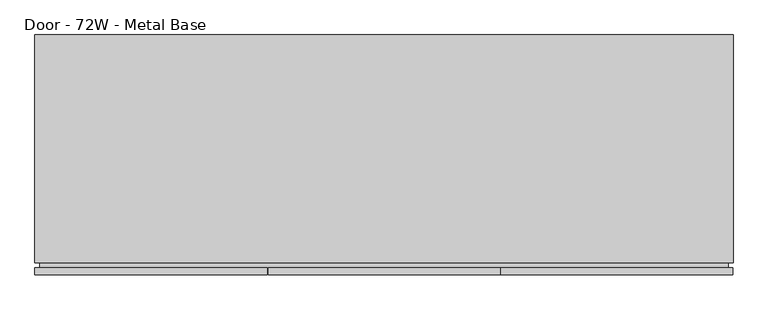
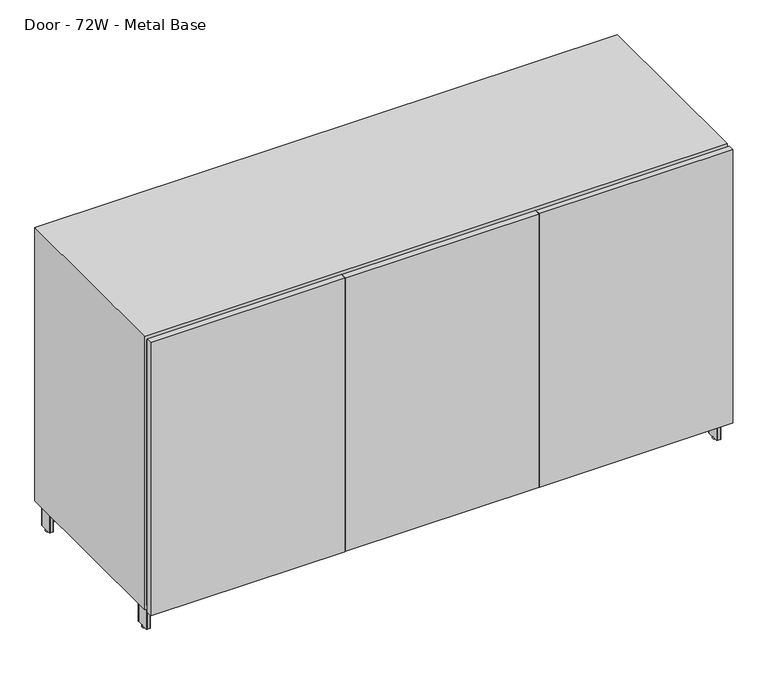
"""IFC4 building model written with IfcOpenShell, lengths in millimetres: furniture geometry, Steelcase Coalesse - Exponents - Storage - Credenza - 39H : Door - 72W - Metal Base."""

from ifc_helpers import new_model, si_unit, point, frame, frame_2d, origin, origin_with_axes, place, context, project, spatial, polyline, circle_curve, trimmed, segment, composite_curve, outline, extrude, faceted_brep, source, transform, mapped, element, save


def door_72w_metal_base_77112ab6(model_context):
    return source(origin(), model_context, "Body", "SolidModel", [
        faceted_brep([(6.35, 31.75, 977.9), (6.35, 31.75, 95.25), (6.35, 622.3, 95.25), (6.35, 622.3, 977.9), (1822.45, 622.3, 95.25), (1822.45, 622.3, 977.9), (1822.45, 31.75, 95.25), (1822.45, 31.75, 977.9), (0.0, 31.75, 82.55), (1828.8, 31.75, 82.55), (1828.8, 31.75, 990.6), (0.0, 31.75, 990.6), (1828.8, 628.65, 82.55), (1828.8, 628.65, 990.6), (0.0, 628.65, 82.55), (0.0, 628.65, 990.6)], [[[0, 1, 2, 3]], [[3, 2, 4, 5]], [[5, 4, 6, 7]], [[8, 9, 10, 11], [7, 6, 1, 0]], [[10, 9, 12, 13]], [[13, 12, 14, 15]], [[15, 14, 8, 11]], [[7, 0, 3, 5]], [[10, 13, 15, 11]], [[1, 6, 4, 2]], [[12, 9, 8, 14]]]),
        extrude(outline(composite_curve([segment(polyline([(1805.1506426, 615.95), (1814.322, 615.95)]), True, "CONTINUOUS"), segment(trimmed(circle_curve(frame_2d((1814.322, 614.172)), 1.778), [point((1814.322, 615.95))], [point((1816.1, 614.172))], False, "CARTESIAN"), True, "CONTINUOUS"), segment(polyline([(1816.1, 614.172), (1816.1, 572.9986)]), True, "CONTINUOUS"), segment(trimmed(circle_curve(frame_2d((1814.322, 572.9986)), 1.778), [point((1816.1, 572.9986))], [point((1814.322, 571.2206))], False, "CARTESIAN"), True, "CONTINUOUS"), segment(polyline([(1814.322, 571.2206), (1805.1948916, 571.2206)]), True, "CONTINUOUS"), segment(trimmed(circle_curve(frame_2d((1805.1948916, 573.0154916)), 1.7948916), [point((1805.1948916, 571.2206))], [point((1803.4, 573.0154916))], False, "CARTESIAN"), True, "CONTINUOUS"), segment(polyline([(1803.4, 573.0154916), (1803.4, 614.1993574)]), True, "CONTINUOUS"), segment(trimmed(circle_curve(frame_2d((1805.1506426, 614.1993574)), 1.7506426), [point((1803.4, 614.1993574))], [point((1805.1506426, 615.95))], False, "CARTESIAN"), True, "CONTINUOUS")], self_intersect=False)), frame((0.0, 0.0, 6.35), z_axis=(0.0, 0.0, 1.0), x_axis=(1.0, 0.0, 0.0)), (0.0, 0.0, 1.0), 73.4568),
        extrude(outline(composite_curve([segment(polyline([(1805.1506426, 88.9), (1814.322, 88.9)]), True, "CONTINUOUS"), segment(trimmed(circle_curve(frame_2d((1814.322, 87.122)), 1.778), [point((1814.322, 88.9))], [point((1816.1, 87.122))], False, "CARTESIAN"), True, "CONTINUOUS"), segment(polyline([(1816.1, 87.122), (1816.1, 45.9486)]), True, "CONTINUOUS"), segment(trimmed(circle_curve(frame_2d((1814.322, 45.9486)), 1.778), [point((1816.1, 45.9486))], [point((1814.322, 44.1706))], False, "CARTESIAN"), True, "CONTINUOUS"), segment(polyline([(1814.322, 44.1706), (1805.1948916, 44.1706)]), True, "CONTINUOUS"), segment(trimmed(circle_curve(frame_2d((1805.1948916, 45.9654916)), 1.7948916), [point((1805.1948916, 44.1706))], [point((1803.4, 45.9654916))], False, "CARTESIAN"), True, "CONTINUOUS"), segment(polyline([(1803.4, 45.9654916), (1803.4, 87.1493574)]), True, "CONTINUOUS"), segment(trimmed(circle_curve(frame_2d((1805.1506426, 87.1493574)), 1.7506426), [point((1803.4, 87.1493574))], [point((1805.1506426, 88.9))], False, "CARTESIAN"), True, "CONTINUOUS")], self_intersect=False)), frame((0.0, 0.0, 6.35), z_axis=(0.0, 0.0, 1.0), x_axis=(1.0, 0.0, 0.0)), (0.0, 0.0, 1.0), 73.4568),
        extrude(outline(composite_curve([segment(trimmed(circle_curve(frame_2d((1809.75, 593.5667033)), 6.35), [point((1809.75, 599.9167033))], [point((1809.75, 587.2167033))], False, "CARTESIAN"), True, "CONTINUOUS"), segment(trimmed(circle_curve(frame_2d((1809.75, 593.5667033)), 6.35), [point((1809.75, 587.2167033))], [point((1809.75, 599.9167033))], False, "CARTESIAN"), True, "CONTINUOUS")], self_intersect=False)), origin_with_axes(), (0.0, 0.0, 1.0), 6.35),
        extrude(outline(composite_curve([segment(trimmed(circle_curve(frame_2d((1809.75, 66.7867854)), 6.35), [point((1809.75, 73.1367854))], [point((1809.75, 60.4367854))], False, "CARTESIAN"), True, "CONTINUOUS"), segment(trimmed(circle_curve(frame_2d((1809.75, 66.7867854)), 6.35), [point((1809.75, 60.4367854))], [point((1809.75, 73.1367854))], False, "CARTESIAN"), True, "CONTINUOUS")], self_intersect=False)), origin_with_axes(), (0.0, 0.0, 1.0), 6.35),
        extrude(outline(polyline([(1270.0, 379.0696809), (1270.0, 277.4696809), (1168.4, 277.4696809), (1168.4, 379.0696809), (1270.0, 379.0696809)])), frame((0.0, 0.0, 79.8068), z_axis=(0.0, 0.0, 1.0), x_axis=(1.0, 0.0, 0.0)), (0.0, 0.0, 1.0), 2.7432),
        extrude(outline(polyline([(977.9, 1816.1), (977.9, 12.7), (95.25, 12.7), (95.25, 1816.1), (977.9, 1816.1)]), holes=[polyline([(971.55, 1809.75), (101.6, 1809.75), (101.6, 19.05), (971.55, 19.05), (971.55, 1809.75)])]), frame((0.0, 19.05, 0.0), z_axis=(0.0, 1.0, 0.0), x_axis=(0.0, 0.0, 1.0)), (0.0, 0.0, 1.0), 31.75),
        extrude(outline(composite_curve([segment(polyline([(1211.4256426, 349.25), (1226.947, 349.25)]), True, "CONTINUOUS"), segment(trimmed(circle_curve(frame_2d((1226.947, 347.472)), 1.778), [point((1226.947, 349.25))], [point((1228.725, 347.472))], False, "CARTESIAN"), True, "CONTINUOUS"), segment(polyline([(1228.725, 347.472), (1228.725, 312.928)]), True, "CONTINUOUS"), segment(trimmed(circle_curve(frame_2d((1226.947, 312.928)), 1.778), [point((1228.725, 312.928))], [point((1226.947, 311.15))], False, "CARTESIAN"), True, "CONTINUOUS"), segment(polyline([(1226.947, 311.15), (1211.4698916, 311.15)]), True, "CONTINUOUS"), segment(trimmed(circle_curve(frame_2d((1211.4698916, 312.9448916)), 1.7948916), [point((1211.4698916, 311.15))], [point((1209.675, 312.9448916))], False, "CARTESIAN"), True, "CONTINUOUS"), segment(polyline([(1209.675, 312.9448916), (1209.675, 347.4993574)]), True, "CONTINUOUS"), segment(trimmed(circle_curve(frame_2d((1211.4256426, 347.4993574)), 1.7506426), [point((1209.675, 347.4993574))], [point((1211.4256426, 349.25))], False, "CARTESIAN"), True, "CONTINUOUS")], self_intersect=False)), frame((0.0, 0.0, 6.35), z_axis=(0.0, 0.0, 1.0), x_axis=(1.0, 0.0, 0.0)), (0.0, 0.0, 1.0), 73.4568),
        extrude(outline(polyline([(1220.4800308, 345.280854), (1803.4, 598.591626), (1803.4, 577.8206777), (1233.5741031, 330.2), (1803.4, 82.5793223), (1803.4, 61.808374), (1220.777267, 314.9899805), (1227.2101738, 329.7934165), (1220.4800308, 345.280854)])), frame((0.0, 0.0, 34.925), z_axis=(0.0, 0.0, 1.0), x_axis=(1.0, 0.0, 0.0)), (0.0, 0.0, 1.0), 44.8818),
        extrude(outline(polyline([(1822.45, 520.7), (1720.85, 520.7), (1720.85, 622.3), (1822.45, 622.3), (1822.45, 520.7)])), frame((0.0, 0.0, 79.8068), z_axis=(0.0, 0.0, 1.0), x_axis=(1.0, 0.0, 0.0)), (0.0, 0.0, 1.0), 2.7432),
        extrude(outline(polyline([(1822.45, 139.7), (1822.45, 38.1), (1720.85, 38.1), (1720.85, 139.7), (1822.45, 139.7)])), frame((0.0, 0.0, 79.8068), z_axis=(0.0, 0.0, 1.0), x_axis=(1.0, 0.0, 0.0)), (0.0, 0.0, 1.0), 2.7432),
        extrude(outline(composite_curve([segment(trimmed(circle_curve(frame_2d((1219.0250692, 330.5590189)), 6.35), [point((1219.0250692, 336.9090189))], [point((1219.0250692, 324.2090189))], False, "CARTESIAN"), True, "CONTINUOUS"), segment(trimmed(circle_curve(frame_2d((1219.0250692, 330.5590189)), 6.35), [point((1219.0250692, 324.2090189))], [point((1219.0250692, 336.9090189))], False, "CARTESIAN"), True, "CONTINUOUS")], self_intersect=False)), origin_with_axes(), (0.0, 0.0, 1.0), 6.35),
        extrude(outline(polyline([(1827.8348, 19.05), (1827.8348, 0.0), (1220.0128, 0.0), (1220.0128, 19.05), (1827.8348, 19.05)])), frame((0.0, 0.0, 82.55), z_axis=(0.0, 0.0, 1.0), x_axis=(1.0, 0.0, 0.0)), (0.0, 0.0, 1.0), 908.05),
        extrude(outline(composite_curve([segment(trimmed(circle_curve(frame_2d((23.6493574, 614.1993574)), 1.7506426), [point((23.6493574, 615.95))], [point((25.4, 614.1993574))], False, "CARTESIAN"), True, "CONTINUOUS"), segment(polyline([(25.4, 614.1993574), (25.4, 573.0154916)]), True, "CONTINUOUS"), segment(trimmed(circle_curve(frame_2d((23.6051084, 573.0154916)), 1.7948916), [point((25.4, 573.0154916))], [point((23.6051084, 571.2206))], False, "CARTESIAN"), True, "CONTINUOUS"), segment(polyline([(23.6051084, 571.2206), (14.478, 571.2206)]), True, "CONTINUOUS"), segment(trimmed(circle_curve(frame_2d((14.478, 572.9986)), 1.778), [point((14.478, 571.2206))], [point((12.7, 572.9986))], False, "CARTESIAN"), True, "CONTINUOUS"), segment(polyline([(12.7, 572.9986), (12.7, 614.172)]), True, "CONTINUOUS"), segment(trimmed(circle_curve(frame_2d((14.478, 614.172)), 1.778), [point((12.7, 614.172))], [point((14.478, 615.95))], False, "CARTESIAN"), True, "CONTINUOUS"), segment(polyline([(14.478, 615.95), (23.6493574, 615.95)]), True, "CONTINUOUS")], self_intersect=False)), frame((0.0, 0.0, 6.35), z_axis=(0.0, 0.0, 1.0), x_axis=(1.0, 0.0, 0.0)), (0.0, 0.0, 1.0), 73.4568),
        extrude(outline(composite_curve([segment(trimmed(circle_curve(frame_2d((23.6493574, 87.1493574)), 1.7506426), [point((23.6493574, 88.9))], [point((25.4, 87.1493574))], False, "CARTESIAN"), True, "CONTINUOUS"), segment(polyline([(25.4, 87.1493574), (25.4, 45.9654916)]), True, "CONTINUOUS"), segment(trimmed(circle_curve(frame_2d((23.6051084, 45.9654916)), 1.7948916), [point((25.4, 45.9654916))], [point((23.6051084, 44.1706))], False, "CARTESIAN"), True, "CONTINUOUS"), segment(polyline([(23.6051084, 44.1706), (14.478, 44.1706)]), True, "CONTINUOUS"), segment(trimmed(circle_curve(frame_2d((14.478, 45.9486)), 1.778), [point((14.478, 44.1706))], [point((12.7, 45.9486))], False, "CARTESIAN"), True, "CONTINUOUS"), segment(polyline([(12.7, 45.9486), (12.7, 87.122)]), True, "CONTINUOUS"), segment(trimmed(circle_curve(frame_2d((14.478, 87.122)), 1.778), [point((12.7, 87.122))], [point((14.478, 88.9))], False, "CARTESIAN"), True, "CONTINUOUS"), segment(polyline([(14.478, 88.9), (23.6493574, 88.9)]), True, "CONTINUOUS")], self_intersect=False)), frame((0.0, 0.0, 6.35), z_axis=(0.0, 0.0, 1.0), x_axis=(1.0, 0.0, 0.0)), (0.0, 0.0, 1.0), 73.4568),
        extrude(outline(composite_curve([segment(trimmed(circle_curve(frame_2d((617.3743574, 347.4993574)), 1.7506426), [point((617.3743574, 349.25))], [point((619.125, 347.4993574))], False, "CARTESIAN"), True, "CONTINUOUS"), segment(polyline([(619.125, 347.4993574), (619.125, 312.9448916)]), True, "CONTINUOUS"), segment(trimmed(circle_curve(frame_2d((617.3301084, 312.9448916)), 1.7948916), [point((619.125, 312.9448916))], [point((617.3301084, 311.15))], False, "CARTESIAN"), True, "CONTINUOUS"), segment(polyline([(617.3301084, 311.15), (601.853, 311.15)]), True, "CONTINUOUS"), segment(trimmed(circle_curve(frame_2d((601.853, 312.928)), 1.778), [point((601.853, 311.15))], [point((600.075, 312.928))], False, "CARTESIAN"), True, "CONTINUOUS"), segment(polyline([(600.075, 312.928), (600.075, 347.472)]), True, "CONTINUOUS"), segment(trimmed(circle_curve(frame_2d((601.853, 347.472)), 1.778), [point((600.075, 347.472))], [point((601.853, 349.25))], False, "CARTESIAN"), True, "CONTINUOUS"), segment(polyline([(601.853, 349.25), (617.3743574, 349.25)]), True, "CONTINUOUS")], self_intersect=False)), frame((0.0, 0.0, 6.35), z_axis=(0.0, 0.0, 1.0), x_axis=(1.0, 0.0, 0.0)), (0.0, 0.0, 1.0), 73.4568),
        extrude(outline(polyline([(608.3199692, 345.280854), (601.5898262, 329.7934165), (608.022733, 314.9899805), (25.4, 61.808374), (25.4, 82.5793223), (595.2258969, 330.2), (25.4, 577.8206777), (25.4, 598.591626), (608.3199692, 345.280854)])), frame((0.0, 0.0, 34.925), z_axis=(0.0, 0.0, 1.0), x_axis=(1.0, 0.0, 0.0)), (0.0, 0.0, 1.0), 44.8818),
        extrude(outline(polyline([(1218.4126, 19.05), (1218.4126, 0.0), (610.5652, 0.0), (610.5652, 19.05), (1218.4126, 19.05)])), frame((0.0, 0.0, 82.55), z_axis=(0.0, 0.0, 1.0), x_axis=(1.0, 0.0, 0.0)), (0.0, 0.0, 1.0), 908.05),
        extrude(outline(polyline([(6.35, 520.7), (6.35, 622.3), (107.95, 622.3), (107.95, 520.7), (6.35, 520.7)])), frame((0.0, 0.0, 79.8068), z_axis=(0.0, 0.0, 1.0), x_axis=(1.0, 0.0, 0.0)), (0.0, 0.0, 1.0), 2.7432),
        extrude(outline(polyline([(6.35, 139.7), (107.95, 139.7), (107.95, 38.1), (6.35, 38.1), (6.35, 139.7)])), frame((0.0, 0.0, 79.8068), z_axis=(0.0, 0.0, 1.0), x_axis=(1.0, 0.0, 0.0)), (0.0, 0.0, 1.0), 2.7432),
        extrude(outline(polyline([(558.8, 379.0696809), (660.4, 379.0696809), (660.4, 277.4696809), (558.8, 277.4696809), (558.8, 379.0696809)])), frame((0.0, 0.0, 79.8068), z_axis=(0.0, 0.0, 1.0), x_axis=(1.0, 0.0, 0.0)), (0.0, 0.0, 1.0), 2.7432),
        extrude(outline(polyline([(608.965, 19.05), (608.965, 0.0), (0.0, 0.0), (0.0, 19.05), (608.965, 19.05)])), frame((0.0, 0.0, 82.55), z_axis=(0.0, 0.0, 1.0), x_axis=(1.0, 0.0, 0.0)), (0.0, 0.0, 1.0), 908.05),
        extrude(outline(composite_curve([segment(trimmed(circle_curve(frame_2d((19.05, 593.5667033)), 6.35), [point((12.7, 593.5667033))], [point((25.4, 593.5667033))], False, "CARTESIAN"), True, "CONTINUOUS"), segment(trimmed(circle_curve(frame_2d((19.05, 593.5667033)), 6.35), [point((25.4, 593.5667033))], [point((12.7, 593.5667033))], False, "CARTESIAN"), True, "CONTINUOUS")], self_intersect=False)), origin_with_axes(), (0.0, 0.0, 1.0), 6.35),
        extrude(outline(composite_curve([segment(trimmed(circle_curve(frame_2d((19.05, 66.7867854)), 6.35), [point((12.7, 66.7867854))], [point((25.4, 66.7867854))], False, "CARTESIAN"), True, "CONTINUOUS"), segment(trimmed(circle_curve(frame_2d((19.05, 66.7867854)), 6.35), [point((25.4, 66.7867854))], [point((12.7, 66.7867854))], False, "CARTESIAN"), True, "CONTINUOUS")], self_intersect=False)), origin_with_axes(), (0.0, 0.0, 1.0), 6.35),
        extrude(outline(composite_curve([segment(trimmed(circle_curve(frame_2d((609.7749308, 330.5590189)), 6.35), [point((603.4249308, 330.5590189))], [point((616.1249308, 330.5590189))], False, "CARTESIAN"), True, "CONTINUOUS"), segment(trimmed(circle_curve(frame_2d((609.7749308, 330.5590189)), 6.35), [point((616.1249308, 330.5590189))], [point((603.4249308, 330.5590189))], False, "CARTESIAN"), True, "CONTINUOUS")], self_intersect=False)), origin_with_axes(), (0.0, 0.0, 1.0), 6.35),
        extrude(outline(polyline([(0.0, -19.05), (0.0, 0.0), (31.75, 0.0), (31.75, -19.05), (0.0, -19.05)])), frame((1209.675, 19.05, 101.6), z_axis=(3.14415160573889e-12, 0.0, 1.0), x_axis=(0.0, 1.0, 0.0)), (0.0, 0.0, 1.0), 869.95),
        extrude(outline(polyline([(0.0, -19.05), (0.0, 0.0), (31.75, 0.0), (31.75, -19.05), (0.0, -19.05)])), frame((590.55, 19.05, 101.6), z_axis=(3.3644198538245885e-12, 0.0, 1.0), x_axis=(0.0, 1.0, 0.0)), (0.0, 0.0, 1.0), 869.95),
        extrude(outline(polyline([(1209.675, 609.6), (1228.725, 609.6), (1228.725, 50.8), (1209.675, 50.8), (1209.675, 609.6)])), frame((0.0, 0.0, 95.25), z_axis=(0.0, 0.0, 1.0), x_axis=(1.0, 0.0, 0.0)), (0.0, 0.0, 1.0), 882.65),
        extrude(outline(polyline([(1209.675, 50.8), (609.6, 50.8), (609.6, 609.6), (1209.675, 609.6), (1209.675, 50.8)])), frame((0.0, 0.0, 523.875), z_axis=(0.0, 0.0, 1.0), x_axis=(1.0, 0.0, 0.0)), (0.0, 0.0, 1.0), 19.05),
        extrude(outline(polyline([(590.55, 609.6), (609.6, 609.6), (609.6, 50.8), (590.55, 50.8), (590.55, 609.6)])), frame((0.0, 0.0, 95.25), z_axis=(0.0, 0.0, 1.0), x_axis=(1.0, 0.0, 0.0)), (0.0, 0.0, 1.0), 882.65),
    ])


if __name__ == "__main__":
    model = new_model("IFC4")
    model_context = context("Model", 3, world=origin())
    ifc_project = project(units=[si_unit("LENGTHUNIT", "METRE", prefix="MILLI")], contexts=[model_context])
    site = spatial("IfcSite", under=ifc_project)
    building = spatial("IfcBuilding", under=site)
    placement = place(None, origin())
    door_72w_metal_base_shape = door_72w_metal_base_77112ab6(model_context)
    element("IfcFurniture", 1, ObjectType="Steelcase Coalesse - Exponents - Storage - Credenza - 39H : Door - 72W - Metal Base", at=placement, inside=building, context=model_context, shape_type="MappedRepresentation", body=[
        mapped(door_72w_metal_base_shape, transform((0.0, 0.0, 0.0), x_axis=(1.0, 0.0, 0.0), y_axis=(0.0, 1.0, 0.0), z_axis=(0.0, 0.0, 1.0))),
    ])
    save(model, "model.ifc")
